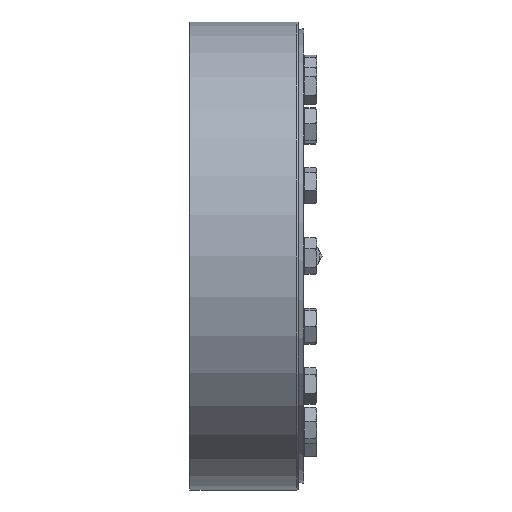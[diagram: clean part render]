
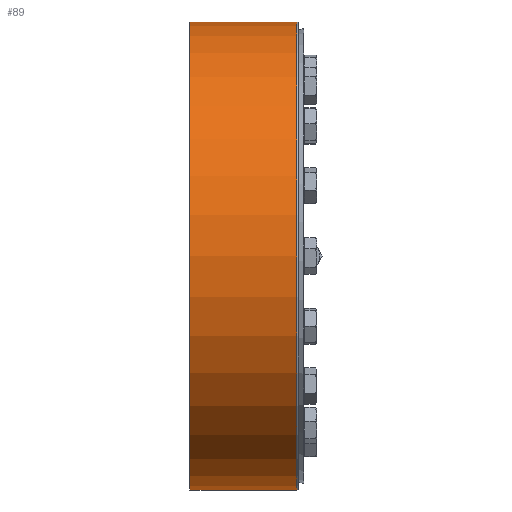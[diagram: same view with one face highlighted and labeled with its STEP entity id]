
A CAD part, left-side view. The second image highlights one B-rep face of the part: STEP entity #89.
In plain terms, the highlighted cylindrical face has radius 175 mm (diameter 350 mm), a full revolution.
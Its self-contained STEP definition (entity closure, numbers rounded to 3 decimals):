
#89 = ADVANCED_FACE( '', ( #220, #221 ), #222, .T. );
#220 = FACE_OUTER_BOUND( '', #411, .T. );
#221 = FACE_OUTER_BOUND( '', #412, .T. );
#222 = CYLINDRICAL_SURFACE( '', #413, 175. );
#411 = EDGE_LOOP( '', ( #665 ) );
#412 = EDGE_LOOP( '', ( #666 ) );
#413 = AXIS2_PLACEMENT_3D( '', #667, #668, #669 );
#665 = ORIENTED_EDGE( '', *, *, #923, .T. );
#666 = ORIENTED_EDGE( '', *, *, #937, .T. );
#667 = CARTESIAN_POINT( '', ( 0., -60., 0. ) );
#668 = DIRECTION( '', ( 0., 1., 0. ) );
#669 = DIRECTION( '', ( 0., 0., -1. ) );
#923 = EDGE_CURVE( '', #1094, #1094, #1095, .F. );
#937 = EDGE_CURVE( '', #1119, #1119, #1120, .T. );
#1094 = VERTEX_POINT( '', #1436 );
#1095 = CIRCLE( '', #1437, 175. );
#1119 = VERTEX_POINT( '', #1464 );
#1120 = CIRCLE( '', #1465, 175. );
#1436 = CARTESIAN_POINT( '', ( 0., 5., -175. ) );
#1437 = AXIS2_PLACEMENT_3D( '', #1647, #1648, #1649 );
#1464 = CARTESIAN_POINT( '', ( 0., 85., -175. ) );
#1465 = AXIS2_PLACEMENT_3D( '', #1680, #1681, #1682 );
#1647 = CARTESIAN_POINT( '', ( 0., 5., 0. ) );
#1648 = DIRECTION( '', ( 0., -1., 0. ) );
#1649 = DIRECTION( '', ( 0., 0., -1. ) );
#1680 = CARTESIAN_POINT( '', ( 0., 85., 0. ) );
#1681 = DIRECTION( '', ( 0., -1., 0. ) );
#1682 = DIRECTION( '', ( 0., 0., -1. ) );
